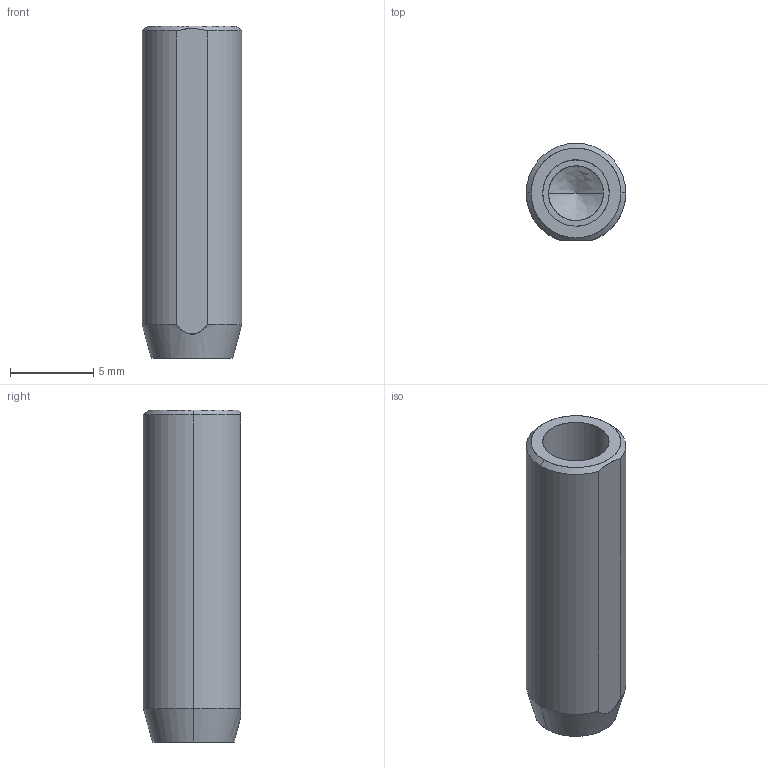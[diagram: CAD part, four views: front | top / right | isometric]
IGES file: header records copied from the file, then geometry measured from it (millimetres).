
Global section: file name: E:\UnigraphicsGraphicData\MISUMI_PRESS-PARTS\IGES\3d_mstm6-20_00430_r00.igs; native system: NX V5.0; preprocessor: UGS NX IGES V5.0; author: MISUMI; date: 20110105.161521; units: millimetre
Bounding box: 6 x 5.85 x 20 mm (x, y, z)
Surface area: 551.1 mm2 (no closed solid volume)
Topology: 0 solids, 0 shells, 17 faces, 100 edges, 98 vertices
Faces by surface type: bspline 17
